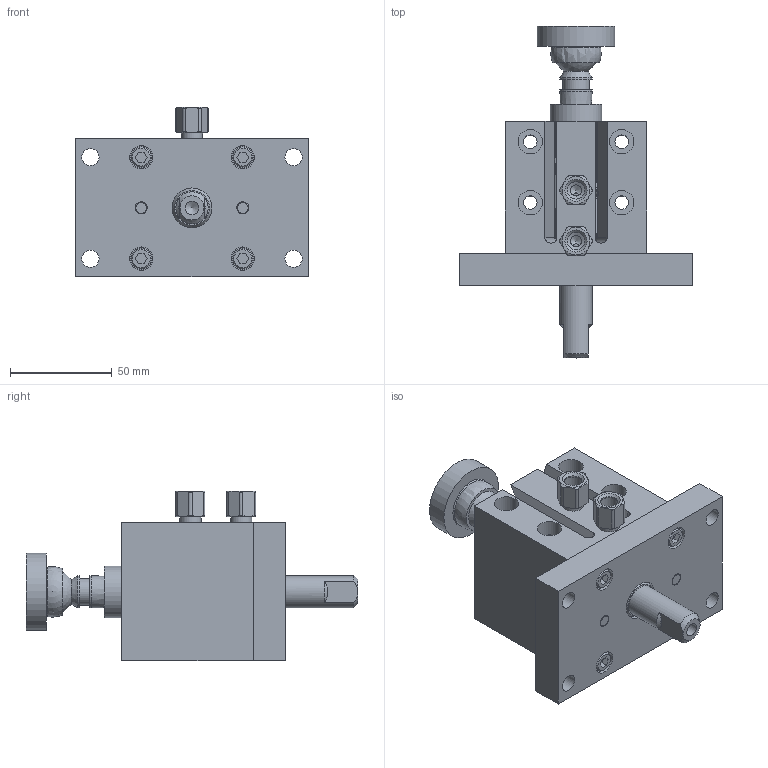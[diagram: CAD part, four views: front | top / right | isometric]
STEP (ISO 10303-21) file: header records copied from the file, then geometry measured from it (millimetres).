
FILE_DESCRIPTION(/* description */ ('PNEUMATIC PASS THRU GROUND UNIT'),/* implementation_level */ '2;1');
FILE_NAME(/* name */ 'C:\Vault Workspace\CAD\Welker\Cylinders\GBP\GBPBN.stp',/* time_stamp */ '2021-06-24T13:59:24-04:00',/* author */ ('KPL'),/* organization */ (''),/* preprocessor_version */ 'ST-DEVELOPER v18.1',/* originating_system */ 'Autodesk Inventor 2020',/* authorisation */ '');
FILE_SCHEMA (('AUTOMOTIVE_DESIGN { 1 0 10303 214 3 1 1 }'));
Products named in the file (12): GBPL01; 6mmX25 ; M6X1-20 SHCS; NL6; WBB1222823; L3 Sensor 1; SN-1512; GBPE01; GBPE02; GBPE03; AN-09U2145; AN-03U2145
Assembly tree (20 placements, depth 2):
  GBPL01
    6mmX25   x2
    M6X1-20 SHCS  x4
    NL6  x4
    WBB1222823  x2
    L3 Sensor 1  x2
    SN-1512
    GBPE01
    GBPE02
    GBPE03
    AN-09U2145
    AN-03U2145
Bounding box: 114.3 x 163.5 x 83.65 mm (x, y, z)
Volume: 402945.6 mm3; surface area: 99171.6 mm2
Topology: 20 solids, 20 shells, 571 faces, 1499 edges, 1010 vertices
Faces by surface type: plane 344, cylinder 161, cone 54, torus 8, sphere 4
Full cylindrical faces by diameter (mm): 2.5 x2, 2.9 x2, 4.917 x4, 5.588 x2, 6 x10, 6.5 x8, 6.647 x5, 7.95 x2, 8 x2, 8.5 x4, 8.611 x2, 10 x4, 10.389 x2, 10.8 x4, 11.5 x4, 12 x4, 13 x1, 13.335 x1, 14.935 x2, 15.875 x6, 15.951 x2, 16.129 x1, 19.609 x1, 22.022 x1, 22.225 x1, 22.479 x2, 25.4 x1, 26.162 x1, 28.55 x1, 29.159 x1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
Entity records: 12381 total; most frequent: CARTESIAN_POINT 2336, DIRECTION 2092, ORIENTED_EDGE 1884, EDGE_CURVE 942, AXIS2_PLACEMENT_3D 802, VERTEX_POINT 657, LINE 488, VECTOR 488
